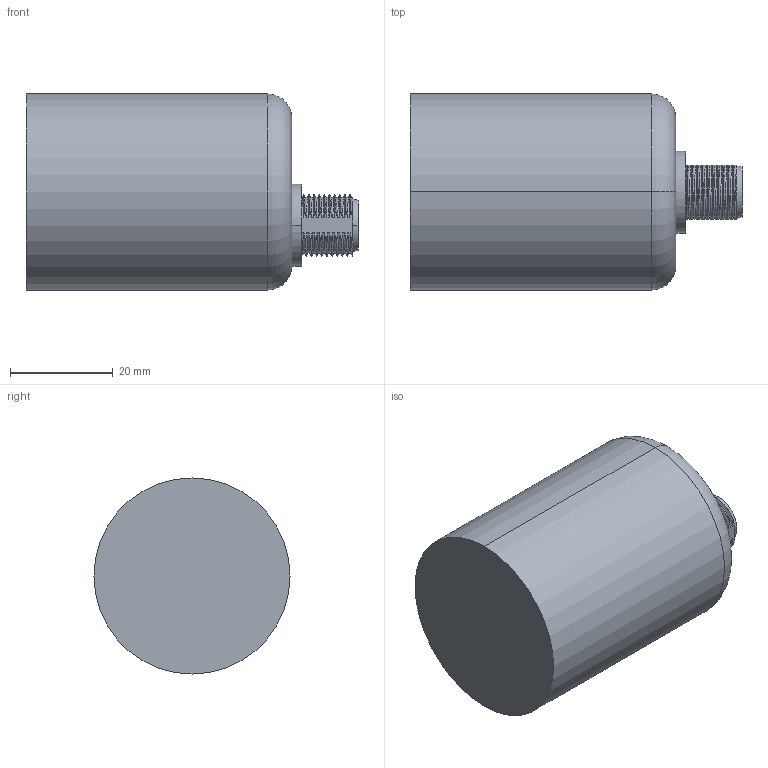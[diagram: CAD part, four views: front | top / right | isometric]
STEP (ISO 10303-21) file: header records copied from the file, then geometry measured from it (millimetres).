
FILE_DESCRIPTION (( 'STEP AP203' ), '1' );
FILE_NAME ('Drawing-MC-4-CA-518-4NM-12BNNN-N-PAM-N.STEP', '2013-05-21T09:03:09', ( '' ), ( '' ), 'SwSTEP 2.0', 'SolidWorks 2006104', '' );
FILE_SCHEMA (( 'CONFIG_CONTROL_DESIGN' ));
Length unit declared in the file: millimetre
Products named in the file (1): Drawing-MC-4-CA-518-4NM-12BNNN-N-PAM-N
Bounding box: 64.7 x 38.2 x 38.2 mm (x, y, z)
Volume: 6866.9 mm3; surface area: 18697.2 mm2
Topology: 3 solids, 3 shells, 155 faces, 482 edges, 337 vertices
Faces by surface type: cylinder 65, bspline 47, plane 20, torus 14, sphere 5, cone 4
Entity records: 7889 total; most frequent: CARTESIAN_POINT 4327, ORIENTED_EDGE 924, DIRECTION 534, EDGE_CURVE 462, VERTEX_POINT 327, AXIS2_PLACEMENT_3D 215, EDGE_LOOP 171, FACE_OUTER_BOUND 155
